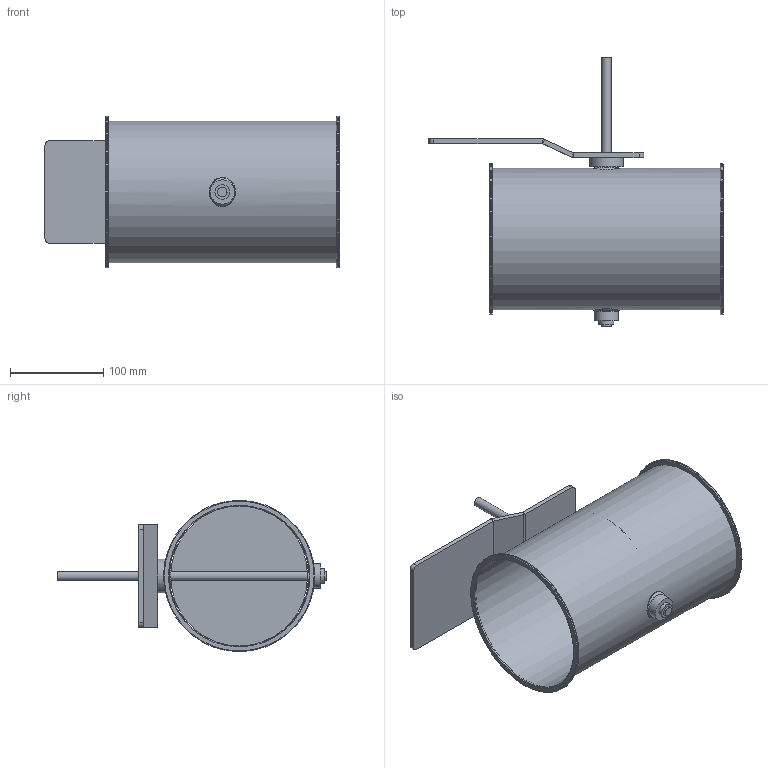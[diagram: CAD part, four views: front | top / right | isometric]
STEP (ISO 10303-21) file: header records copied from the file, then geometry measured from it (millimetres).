
FILE_DESCRIPTION(/* description */ (''),/* implementation_level */ '2;1');
FILE_NAME(/* name */ 'EA124-80B__150_L250_Belimo_Typen_NF_SF.stp',/* time_stamp */ '2017-12-06T12:09:23+01:00',/* author */ (''),/* organization */ (''),/* preprocessor_version */ 'ST-DEVELOPER v11',/* originating_system */ 'SIEMENS UGS NX 6.0',/* authorisation */ '');
FILE_SCHEMA (('CONFIG_CONTROL_DESIGN'));
Length unit declared in the file: millimetre
Products named in the file (1): gars18E2j1xo
Bounding box: 315 x 289 x 162 mm (x, y, z)
Volume: 294623.4 mm3; surface area: 355352.7 mm2
Topology: 8 solids, 8 shells, 92 faces, 193 edges, 125 vertices
Faces by surface type: plane 42, cylinder 32, torus 10, cone 4, bspline 4
Full cylindrical faces by diameter (mm): 4.1 x4, 10 x3, 15 x3, 15.85 x2, 16 x2, 24 x2, 26 x1, 36 x1, 150 x1, 151.6 x1, 162 x2
Entity records: 2780 total; most frequent: CARTESIAN_POINT 929, DIRECTION 382, ORIENTED_EDGE 268, AXIS2_PLACEMENT_3D 167, EDGE_LOOP 164, FACE_BOUND 134, EDGE_CURVE 134, VERTEX_POINT 106
